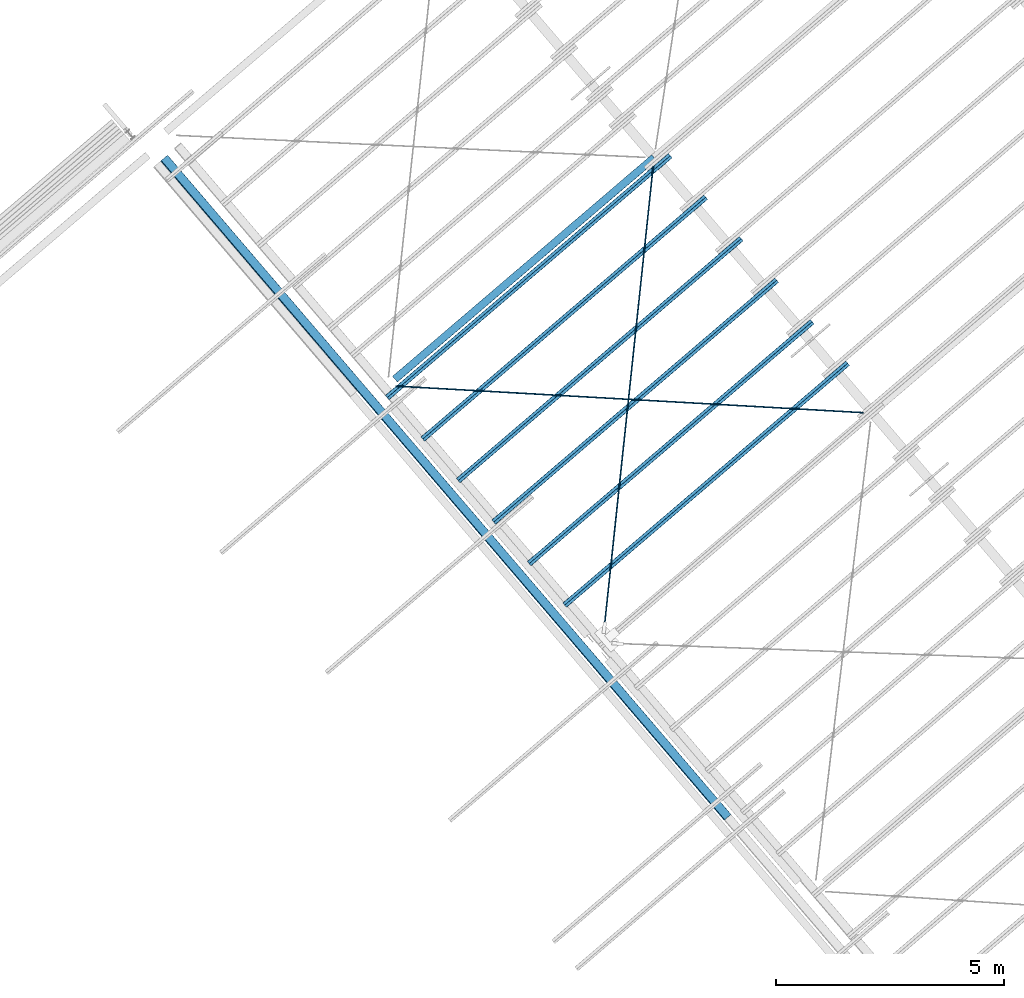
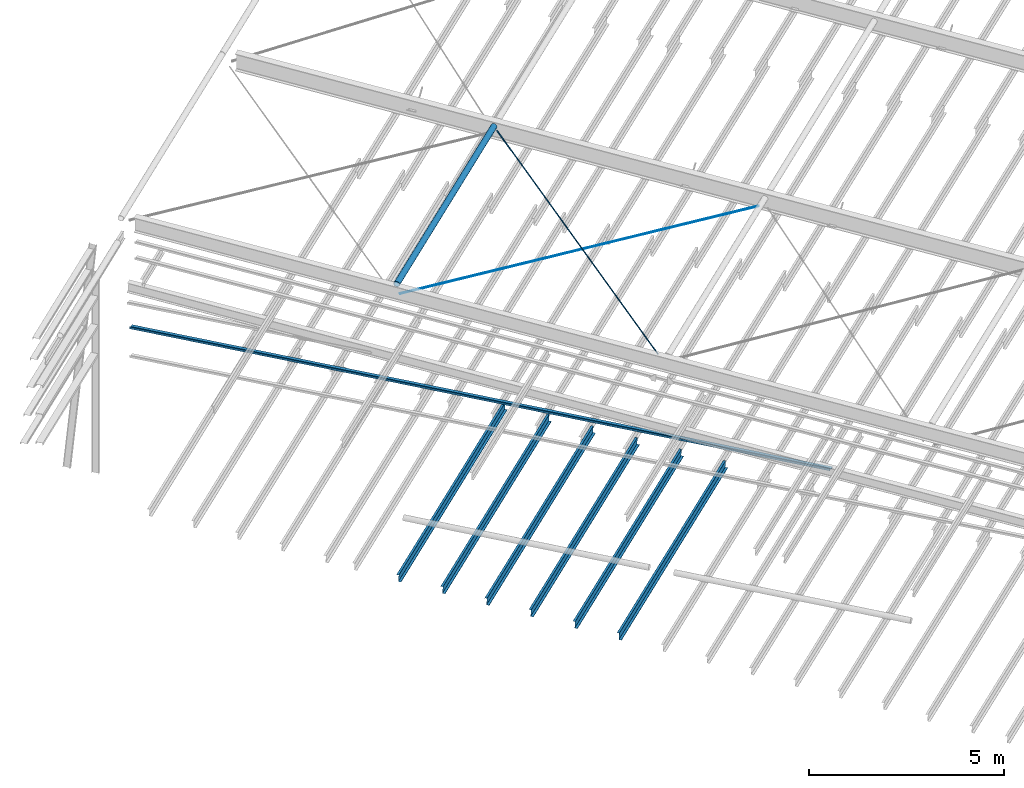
# One storey, part 8 of 25: 10 beams, 1 element without a shape of its own.
"""IFC2X3 building model written with IfcOpenShell, lengths in millimetres."""

from ifc_helpers import new_model, entity, si_unit, converted_unit, derived_unit, direction, frame, frame_2d, origin, origin_2d_with_axis, place, context, subcontext, project, spatial, polyline, circle_curve, parameter, trimmed, segment, composite_curve, circle, hollow_circle, outline, extrude, material, type_object, element, aggregate, save


model = new_model("IFC2X3")

# Units and contexts
model_context = context("Model", 3, precision=0.01, world=origin(), true_north=direction((6.123031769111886e-17, 1.0)))
body_context = subcontext(model_context, "Body", "Model", "MODEL_VIEW")
ifc_project = project(units=[si_unit("LENGTHUNIT", "METRE", prefix="MILLI"), si_unit("AREAUNIT", "SQUARE_METRE"), si_unit("VOLUMEUNIT", "CUBIC_METRE"), converted_unit("PLANEANGLEUNIT", "DEGREE", entity("IfcRatioMeasure", 0.017453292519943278), si_unit("PLANEANGLEUNIT", "RADIAN"), dimensions=[0, 0, 0, 0, 0, 0, 0]), si_unit("MASSUNIT", "GRAM", prefix="KILO"), derived_unit("MASSDENSITYUNIT", [(si_unit("MASSUNIT", "GRAM", prefix="KILO"), 1), (si_unit("LENGTHUNIT", "METRE"), -3)]), derived_unit("MOMENTOFINERTIAUNIT", [(si_unit("LENGTHUNIT", "METRE"), 4)]), si_unit("TIMEUNIT", "SECOND"), si_unit("FREQUENCYUNIT", "HERTZ"), si_unit("THERMODYNAMICTEMPERATUREUNIT", "DEGREE_CELSIUS"), derived_unit("THERMALTRANSMITTANCEUNIT", [(si_unit("MASSUNIT", "GRAM", prefix="KILO"), 1), (si_unit("THERMODYNAMICTEMPERATUREUNIT", "KELVIN"), -1), (si_unit("TIMEUNIT", "SECOND"), -3)]), derived_unit("VOLUMETRICFLOWRATEUNIT", [(si_unit("LENGTHUNIT", "METRE"), 3), (si_unit("TIMEUNIT", "SECOND"), -1)]), derived_unit("MASSFLOWRATEUNIT", [(si_unit("MASSUNIT", "GRAM", prefix="KILO"), 1), (si_unit("TIMEUNIT", "SECOND"), -1)]), derived_unit("ROTATIONALFREQUENCYUNIT", [(si_unit("TIMEUNIT", "SECOND"), -1)]), si_unit("ELECTRICCURRENTUNIT", "AMPERE"), si_unit("ELECTRICVOLTAGEUNIT", "VOLT"), si_unit("POWERUNIT", "WATT"), si_unit("FORCEUNIT", "NEWTON", prefix="KILO"), si_unit("ILLUMINANCEUNIT", "LUX"), si_unit("LUMINOUSFLUXUNIT", "LUMEN"), si_unit("LUMINOUSINTENSITYUNIT", "CANDELA"), derived_unit("USERDEFINED", [(si_unit("MASSUNIT", "GRAM", prefix="KILO"), -1), (si_unit("LENGTHUNIT", "METRE"), -2), (si_unit("TIMEUNIT", "SECOND"), 3), (si_unit("LUMINOUSFLUXUNIT", "LUMEN"), 1)]), derived_unit("SOUNDPOWERUNIT", [(si_unit("MASSUNIT", "GRAM", prefix="KILO"), 1), (si_unit("LENGTHUNIT", "METRE"), 2), (si_unit("TIMEUNIT", "SECOND"), -3)]), derived_unit("LINEARVELOCITYUNIT", [(si_unit("LENGTHUNIT", "METRE"), 1), (si_unit("TIMEUNIT", "SECOND"), -1)]), si_unit("PRESSUREUNIT", "PASCAL"), derived_unit("USERDEFINED", [(si_unit("LENGTHUNIT", "METRE"), -2), (si_unit("MASSUNIT", "GRAM", prefix="KILO"), 1), (si_unit("TIMEUNIT", "SECOND"), -2)]), derived_unit("LINEARFORCEUNIT", [(si_unit("MASSUNIT", "GRAM", prefix="KILO"), 1), (si_unit("LENGTHUNIT", "METRE"), 1), (si_unit("TIMEUNIT", "SECOND"), -2), (si_unit("LENGTHUNIT", "METRE"), -1)]), derived_unit("PLANARFORCEUNIT", [(si_unit("MASSUNIT", "GRAM", prefix="KILO"), 1), (si_unit("LENGTHUNIT", "METRE"), 1), (si_unit("TIMEUNIT", "SECOND"), -2), (si_unit("LENGTHUNIT", "METRE"), -2)])], contexts=[model_context])

# Site, building, storey
site_placement = place(None, frame((962.4174930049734, -6014.433753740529, 0.0), z_axis=(0.0, 0.0, 1.0), x_axis=(0.7601792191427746, 0.649713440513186, 0.0)))
site = spatial("IfcSite", under=ifc_project, at=site_placement, Name="Default", CompositionType="ELEMENT")
building_placement = place(site_placement, origin())
building = spatial("IfcBuilding", under=site, at=building_placement, CompositionType="ELEMENT")
storey_placement = place(building_placement, frame((0.0, 0.0, 9200.0)))
storey = spatial("IfcBuildingStorey", under=building, at=storey_placement, Name="TOP OF CEILING", CompositionType="ELEMENT", Elevation=9200.000000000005)

# Beams
ifc_material_1 = material(Name="Metal - Steel - 300 MPa")
beam_type_1 = type_object("IfcBeamType", Name="ADSK_AU_CHS-Circular Hollow Sections (AS 1163_C350):168.3x6.4CHS", PredefinedType="NOTDEFINED")
beam_1_placement = place(storey_placement, frame((162338.96020471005, -3867.590582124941, 3583.81152590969), z_axis=(0.0, 0.0, 1.0), x_axis=(-1.0, 0.0, 0.0)))
element("IfcBeam", 1, at=beam_1_placement, inside=storey, type_object=beam_type_1, material=ifc_material_1, Name="ADSK_AU_CHS-Circular Hollow Sections (AS 1163_C350):168.3x6.4CHS", ObjectType="ADSK_AU_CHS-Circular Hollow Sections (AS 1163_C350):168.3x6.4CHS", context=body_context, shape_type="SweptSolid", body=[
    extrude(hollow_circle(Radius=84.15000000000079, WallThickness=6.4000000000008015, at=origin_2d_with_axis()), frame((0.0, 0.0, -84.15000000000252), z_axis=(1.0, 0.0, 0.0), x_axis=(0.0, 1.0, 0.0)), (0.0, 0.0, 1.0), 7474.900953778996),
])
beam_type_2 = type_object("IfcBeamType", Name="ADSK_AU_Round Bars (AS 3679_1):24ROD", PredefinedType="NOTDEFINED")
beam_2_placement = place(storey_placement, frame((154874.08613403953, -10934.010682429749, 3010.0), z_axis=(-0.03451773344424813, -0.03267527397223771, 0.9988697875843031), x_axis=(0.7254021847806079, 0.6866822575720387, 0.047530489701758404)))
element("IfcBeam", 2, at=beam_2_placement, inside=storey, type_object=beam_type_2, Name="ADSK_AU_Round Bars (AS 3679_1):24ROD", ObjectType="ADSK_AU_Round Bars (AS 3679_1):24ROD", context=body_context, shape_type="SweptSolid", body=[
    extrude(circle(Radius=11.999999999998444, at=origin_2d_with_axis()), frame((-53.42958759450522, 0.0, -12.0), z_axis=(1.0, 0.0, 0.0), x_axis=(0.0, -1.0, 0.0)), (0.0, 0.0, 1.0), 10152.170021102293),
])
beam_3_placement = place(storey_placement, frame((162195.0169636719, -11097.978468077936, 2800.0), z_axis=(0.03512097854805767, -0.033647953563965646, 0.998816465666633), x_axis=(-0.7212327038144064, 0.6909831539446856, 0.04863813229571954)))
element("IfcBeam", 3, at=beam_3_placement, inside=storey, type_object=beam_type_2, Name="ADSK_AU_Round Bars (AS 3679_1):24ROD", ObjectType="ADSK_AU_Round Bars (AS 3679_1):24ROD", context=body_context, shape_type="SweptSolid", body=[
    extrude(circle(Radius=11.999999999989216, at=frame_2d((1.563849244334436e-12, 1.0888727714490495e-11), x_axis=(1.0, 0.0))), frame((0.0, 0.0, -12.0), z_axis=(1.0, 0.0, 0.0), x_axis=(0.0, -1.0, 0.0)), (0.0, 0.0, 1.0), 10280.000000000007),
])
beam_type_3 = type_object("IfcBeamType", Name="ADSK_UK_Light Gauge-Zeds-Purlin:Metsec-202Z14", PredefinedType="NOTDEFINED")
beam_4_placement = place(storey_placement, frame((154066.46020470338, -15907.428082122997, 1000.0), z_axis=(0.0, 0.0, 1.0), x_axis=(0.0, 1.0, 0.0)))
element("IfcBeam", 4, at=beam_4_placement, inside=storey, type_object=beam_type_3, material=ifc_material_1, Name="ADSK_UK_Light Gauge-Zeds-Purlin:Metsec-202Z14", ObjectType="ADSK_UK_Light Gauge-Zeds-Purlin:Metsec-202Z14", context=body_context, shape_type="SweptSolid", body=[
    extrude(outline(composite_curve([segment(polyline([(3.6000000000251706, -101.19999999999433), (58.0, -101.19999999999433)]), True, "CONTINUOUS"), segment(trimmed(circle_curve(frame_2d((58.0, -98.39999999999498), x_axis=(0.0, -1.0)), 2.8000000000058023), [parameter(0.0)], [parameter(89.99999999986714)], True, "PARAMETER"), True, "CONTINUOUS"), segment(polyline([(60.800000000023, -98.40000000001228), (60.79999999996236, -80.19999999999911)]), True, "CONTINUOUS"), segment(polyline([(60.800000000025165, -80.19999999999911), (59.399999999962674, -80.19999999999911)]), True, "CONTINUOUS"), segment(polyline([(59.40000000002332, -80.19999999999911), (59.399999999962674, -98.39999999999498)]), True, "CONTINUOUS"), segment(trimmed(circle_curve(frame_2d((58.0, -98.39999999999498), x_axis=(1.0, 0.0)), 1.3999999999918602), [parameter(269.99999999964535)], [parameter(0.0)], True, "PARAMETER"), False, "CONTINUOUS"), segment(polyline([(58.0, -99.79999999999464), (3.5999999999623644, -99.79999999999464)]), True, "CONTINUOUS"), segment(trimmed(circle_curve(frame_2d((3.599999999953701, -98.39999999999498), x_axis=(0.0, -1.0)), 1.399999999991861), [parameter(269.99999999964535)], [parameter(0.0)], True, "PARAMETER"), False, "CONTINUOUS"), segment(polyline([(2.2000000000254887, -98.39999999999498), (2.1999999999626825, 98.0)]), True, "CONTINUOUS"), segment(trimmed(circle_curve(frame_2d((-0.6000000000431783, 98.0), x_axis=(1.0, 0.0)), 2.8000000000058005), [parameter(0.0)], [parameter(89.99999999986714)], True, "PARAMETER"), True, "CONTINUOUS"), segment(polyline([(-0.5999999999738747, 100.80000000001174), (-60.0, 100.80000000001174)]), True, "CONTINUOUS"), segment(trimmed(circle_curve(frame_2d((-60.0, 98.0), x_axis=(0.0, 1.0)), 2.8000000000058), [parameter(0.0)], [parameter(89.99999999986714)], True, "PARAMETER"), True, "CONTINUOUS"), segment(polyline([(-62.79999999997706, 98.0), (-62.8000000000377, 81.80000000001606)]), True, "CONTINUOUS"), segment(polyline([(-62.79999999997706, 81.80000000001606), (-61.40000000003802, 81.80000000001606)]), True, "CONTINUOUS"), segment(polyline([(-61.399999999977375, 81.79999999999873), (-61.40000000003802, 98.0)]), True, "CONTINUOUS"), segment(trimmed(circle_curve(frame_2d((-60.0, 98.0), x_axis=(-1.0, 0.0)), 1.3999999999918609), [parameter(269.99999999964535)], [parameter(0.0)], True, "PARAMETER"), False, "CONTINUOUS"), segment(polyline([(-60.0, 99.40000000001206), (-0.6000000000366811, 99.40000000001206)]), True, "CONTINUOUS"), segment(trimmed(circle_curve(frame_2d((-0.600000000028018, 98.0), x_axis=(0.0, 1.0)), 1.399999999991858), [parameter(269.99999999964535)], [parameter(0.0)], True, "PARAMETER"), False, "CONTINUOUS"), segment(polyline([(0.8000000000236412, 98.0), (0.7999999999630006, -98.39999999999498)]), True, "CONTINUOUS"), segment(trimmed(circle_curve(frame_2d((3.5999999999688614, -98.39999999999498), x_axis=(-1.0, 0.0)), 2.800000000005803), [parameter(0.0)], [parameter(89.99999999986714)], True, "PARAMETER"), True, "CONTINUOUS")], self_intersect=False)), frame((0.0, -100.8000000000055, 0.6999999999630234), z_axis=(1.0, 0.0, 0.0), x_axis=(0.0, 0.0, -1.0)), (0.0, 0.0, 1.0), 19012.000000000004),
])

# Assembly, beams
assembly_placement = place(storey_placement, origin())
assembly = element("IfcElementAssembly", 5, at=assembly_placement, inside=storey, Name="Structural Beam System:Structural Beam System 1", ObjectType="Structural Beam System:Structural Beam System 1", AssemblyPlace="NOTDEFINED", PredefinedType="BEAM_GRID")
ifc_material_2 = material(Name="Metal - Steel - 345 MPa")
beam_type_4 = type_object("IfcBeamType", Name="ADSK_AU_Light Gauge-Zeds:Z20015", PredefinedType="NOTDEFINED")
beam_5_placement = place(building_placement, frame((162638.96020471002, -4065.129149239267, 3905.7468676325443), z_axis=(0.0, 0.0, 1.0), x_axis=(-1.0, 0.0, 0.0)))
beam_5 = element("IfcBeam", 6, at=beam_5_placement, type_object=beam_type_4, material=ifc_material_2, Name="ADSK_AU_Light Gauge-Zeds:Z20015", ObjectType="ADSK_AU_Light Gauge-Zeds:Z20015", context=body_context, shape_type="SweptSolid", body=[
    extrude(outline(composite_curve([segment(polyline([(100.0, 1.0), (100.0, -69.0)]), True, "CONTINUOUS"), segment(trimmed(circle_curve(frame_2d((98.0, -69.0), x_axis=(0.0, -1.0)), 2.000000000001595), [parameter(0.0)], [parameter(89.99999999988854)], True, "PARAMETER"), False, "CONTINUOUS"), segment(polyline([(98.0, -71.0), (81.49999999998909, -71.0)]), True, "CONTINUOUS"), segment(polyline([(81.49999999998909, -71.0), (81.4999999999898, -72.50000000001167)]), True, "CONTINUOUS"), segment(polyline([(81.49999999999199, -72.50000000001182), (98.0, -72.50000000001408)]), True, "CONTINUOUS"), segment(trimmed(circle_curve(frame_2d((98.0, -69.0), x_axis=(1.0, 0.0)), 3.500000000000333), [parameter(270.0000000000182)], [parameter(0.0)], True, "PARAMETER"), True, "CONTINUOUS"), segment(polyline([(101.49999999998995, -69.0), (101.50000000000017, 1.0)]), True, "CONTINUOUS"), segment(trimmed(circle_curve(frame_2d((98.0, 1.0), x_axis=(0.0, 1.0)), 3.500000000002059), [parameter(270.0000000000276)], [parameter(0.0)], True, "PARAMETER"), True, "CONTINUOUS"), segment(polyline([(98.0, 4.499999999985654), (-98.0, 4.500000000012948)]), True, "CONTINUOUS"), segment(trimmed(circle_curve(frame_2d((-98.0, 6.500000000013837), x_axis=(-1.0, 0.0)), 2.0000000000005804), [parameter(0.0)], [parameter(89.99999999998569)], True, "PARAMETER"), False, "CONTINUOUS"), segment(polyline([(-100.0, 6.500000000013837), (-100.0, 64.0)]), True, "CONTINUOUS"), segment(trimmed(circle_curve(frame_2d((-98.0, 64.0), x_axis=(0.0, 1.0)), 2.000000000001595), [parameter(0.0)], [parameter(89.99999999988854)], True, "PARAMETER"), False, "CONTINUOUS"), segment(polyline([(-98.0, 66.0), (-81.49999999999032, 66.0)]), True, "CONTINUOUS"), segment(polyline([(-81.49999999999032, 66.0), (-81.49999999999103, 67.50000000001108)]), True, "CONTINUOUS"), segment(polyline([(-81.4999999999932, 67.50000000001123), (-98.0, 67.50000000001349)]), True, "CONTINUOUS"), segment(trimmed(circle_curve(frame_2d((-98.0, 64.0), x_axis=(-1.0, 0.0)), 3.5000000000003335), [parameter(270.0000000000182)], [parameter(0.0)], True, "PARAMETER"), True, "CONTINUOUS"), segment(polyline([(-101.49999999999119, 64.0), (-101.4999999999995, 6.500000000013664)]), True, "CONTINUOUS"), segment(trimmed(circle_curve(frame_2d((-98.0, 6.500000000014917), x_axis=(0.0, -1.0)), 3.5000000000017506), [parameter(270.0000000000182)], [parameter(0.0)], True, "PARAMETER"), True, "CONTINUOUS"), segment(polyline([(-98.0, 3.0), (98.0, 3.0)]), True, "CONTINUOUS"), segment(trimmed(circle_curve(frame_2d((98.0, 1.0), x_axis=(1.0, 0.0)), 2.0000000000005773), [parameter(0.0)], [parameter(89.99999999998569)], True, "PARAMETER"), False, "CONTINUOUS")], self_intersect=False)), frame((0.013129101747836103, -2.59124385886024, -101.56665523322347), z_axis=(-1.0, 0.0, 0.0), x_axis=(0.0, -0.06975647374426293, -0.9975640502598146)), (0.0, 0.0, -1.0), 8164.0000000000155),
])
beam_6_placement = place(building_placement, frame((162638.96020471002, -5262.206009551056, 3822.0390991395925), z_axis=(0.0, 0.0, 1.0), x_axis=(-1.0, 0.0, 0.0)))
beam_6 = element("IfcBeam", 7, at=beam_6_placement, type_object=beam_type_4, material=ifc_material_2, Name="ADSK_AU_Light Gauge-Zeds:Z20015", ObjectType="ADSK_AU_Light Gauge-Zeds:Z20015", context=body_context, shape_type="SweptSolid", body=[
    extrude(outline(composite_curve([segment(polyline([(100.0, 1.0), (100.0, -69.0)]), True, "CONTINUOUS"), segment(trimmed(circle_curve(frame_2d((98.0, -69.0), x_axis=(0.0, -1.0)), 2.000000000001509), [parameter(0.0)], [parameter(89.99999999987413)], True, "PARAMETER"), False, "CONTINUOUS"), segment(polyline([(98.0, -71.0), (81.49999999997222, -71.0)]), True, "CONTINUOUS"), segment(polyline([(81.49999999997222, -71.0), (81.49999999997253, -72.50000000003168)]), True, "CONTINUOUS"), segment(polyline([(81.49999999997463, -72.50000000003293), (98.0, -72.5000000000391)]), True, "CONTINUOUS"), segment(trimmed(circle_curve(frame_2d((98.0, -69.0), x_axis=(1.0, 0.0)), 3.5000000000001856), [parameter(270.0000000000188)], [parameter(0.0)], True, "PARAMETER"), True, "CONTINUOUS"), segment(polyline([(101.49999999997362, -69.0), (101.5000000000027, 1.0)]), True, "CONTINUOUS"), segment(trimmed(circle_curve(frame_2d((98.0, 1.0), x_axis=(0.0, 1.0)), 3.5000000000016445), [parameter(269.9999999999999)], [parameter(0.0)], True, "PARAMETER"), True, "CONTINUOUS"), segment(polyline([(98.0, 4.499999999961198), (-98.0, 4.500000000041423)]), True, "CONTINUOUS"), segment(trimmed(circle_curve(frame_2d((-98.0, 6.500000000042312), x_axis=(-1.0, 0.0)), 2.000000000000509), [parameter(0.0)], [parameter(89.99999999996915)], True, "PARAMETER"), False, "CONTINUOUS"), segment(polyline([(-100.0, 6.500000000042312), (-100.0, 64.0)]), True, "CONTINUOUS"), segment(trimmed(circle_curve(frame_2d((-98.0, 64.0), x_axis=(0.0, 1.0)), 2.000000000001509), [parameter(0.0)], [parameter(89.99999999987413)], True, "PARAMETER"), False, "CONTINUOUS"), segment(polyline([(-98.0, 66.0), (-81.49999999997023, 66.0)]), True, "CONTINUOUS"), segment(polyline([(-81.49999999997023, 66.0), (-81.49999999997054, 67.50000000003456)]), True, "CONTINUOUS"), segment(polyline([(-81.49999999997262, 67.50000000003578), (-98.0, 67.50000000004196)]), True, "CONTINUOUS"), segment(trimmed(circle_curve(frame_2d((-98.0, 64.0), x_axis=(-1.0, 0.0)), 3.5000000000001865), [parameter(270.0000000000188)], [parameter(0.0)], True, "PARAMETER"), True, "CONTINUOUS"), segment(polyline([(-101.49999999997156, 64.0), (-101.49999999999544, 6.500000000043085)]), True, "CONTINUOUS"), segment(trimmed(circle_curve(frame_2d((-98.0, 6.500000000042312), x_axis=(0.0, -1.0)), 3.500000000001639), [parameter(269.9999999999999)], [parameter(0.0)], True, "PARAMETER"), True, "CONTINUOUS"), segment(polyline([(-98.0, 3.0), (98.0, 3.0)]), True, "CONTINUOUS"), segment(trimmed(circle_curve(frame_2d((98.0, 1.0), x_axis=(1.0, 0.0)), 2.000000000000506), [parameter(0.0)], [parameter(89.99999999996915)], True, "PARAMETER"), False, "CONTINUOUS")], self_intersect=False)), frame((0.013129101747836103, -2.5912438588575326, -101.56665523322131), z_axis=(-1.0, 0.0, 0.0), x_axis=(0.0, -0.06975647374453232, -0.9975640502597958)), (0.0, 0.0, -1.0), 8164.0000000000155),
])
beam_7_placement = place(building_placement, frame((162638.96020471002, -6459.2828698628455, 3738.3313306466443), z_axis=(0.0, 0.0, 1.0), x_axis=(-1.0, 0.0, 0.0)))
beam_7 = element("IfcBeam", 8, at=beam_7_placement, type_object=beam_type_4, material=ifc_material_2, Name="ADSK_AU_Light Gauge-Zeds:Z20015", ObjectType="ADSK_AU_Light Gauge-Zeds:Z20015", context=body_context, shape_type="SweptSolid", body=[
    extrude(outline(composite_curve([segment(polyline([(100.0, 1.0), (100.0, -69.0)]), True, "CONTINUOUS"), segment(trimmed(circle_curve(frame_2d((98.0, -69.0), x_axis=(0.0, -1.0)), 2.000000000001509), [parameter(0.0)], [parameter(89.99999999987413)], True, "PARAMETER"), False, "CONTINUOUS"), segment(polyline([(98.0, -71.0), (81.49999999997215, -71.0)]), True, "CONTINUOUS"), segment(polyline([(81.49999999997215, -71.0), (81.49999999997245, -72.50000000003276)]), True, "CONTINUOUS"), segment(polyline([(81.49999999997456, -72.500000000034), (98.0, -72.50000000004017)]), True, "CONTINUOUS"), segment(trimmed(circle_curve(frame_2d((98.0, -69.0), x_axis=(1.0, 0.0)), 3.5000000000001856), [parameter(270.0000000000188)], [parameter(0.0)], True, "PARAMETER"), True, "CONTINUOUS"), segment(polyline([(101.49999999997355, -69.0), (101.50000000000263, 1.0)]), True, "CONTINUOUS"), segment(trimmed(circle_curve(frame_2d((98.0, 1.0), x_axis=(0.0, 1.0)), 3.5000000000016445), [parameter(269.9999999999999)], [parameter(0.0)], True, "PARAMETER"), True, "CONTINUOUS"), segment(polyline([(98.0, 4.49999999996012), (-98.0, 4.500000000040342)]), True, "CONTINUOUS"), segment(trimmed(circle_curve(frame_2d((-98.0, 6.500000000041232), x_axis=(-1.0, 0.0)), 2.000000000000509), [parameter(0.0)], [parameter(89.99999999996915)], True, "PARAMETER"), False, "CONTINUOUS"), segment(polyline([(-100.0, 6.500000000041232), (-100.0, 64.0)]), True, "CONTINUOUS"), segment(trimmed(circle_curve(frame_2d((-98.0, 64.0), x_axis=(0.0, 1.0)), 2.000000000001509), [parameter(0.0)], [parameter(89.99999999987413)], True, "PARAMETER"), False, "CONTINUOUS"), segment(polyline([(-98.0, 66.0), (-81.49999999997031, 66.0)]), True, "CONTINUOUS"), segment(polyline([(-81.49999999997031, 66.0), (-81.49999999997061, 67.50000000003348)]), True, "CONTINUOUS"), segment(polyline([(-81.4999999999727, 67.5000000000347), (-98.0, 67.50000000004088)]), True, "CONTINUOUS"), segment(trimmed(circle_curve(frame_2d((-98.0, 64.0), x_axis=(-1.0, 0.0)), 3.5000000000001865), [parameter(270.0000000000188)], [parameter(0.0)], True, "PARAMETER"), True, "CONTINUOUS"), segment(polyline([(-101.49999999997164, 64.0), (-101.49999999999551, 6.500000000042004)]), True, "CONTINUOUS"), segment(trimmed(circle_curve(frame_2d((-98.0, 6.500000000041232), x_axis=(0.0, -1.0)), 3.500000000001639), [parameter(269.9999999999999)], [parameter(0.0)], True, "PARAMETER"), True, "CONTINUOUS"), segment(polyline([(-98.0, 3.0), (98.0, 3.0)]), True, "CONTINUOUS"), segment(trimmed(circle_curve(frame_2d((98.0, 1.0), x_axis=(1.0, 0.0)), 2.000000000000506), [parameter(0.0)], [parameter(89.99999999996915)], True, "PARAMETER"), False, "CONTINUOUS")], self_intersect=False)), frame((0.013129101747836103, -2.5912438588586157, -101.56665523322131), z_axis=(-1.0, 0.0, 0.0), x_axis=(0.0, -0.06975647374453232, -0.9975640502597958)), (0.0, 0.0, -1.0), 8164.0000000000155),
])
beam_8_placement = place(building_placement, frame((162638.96020471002, -7656.359730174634, 3654.6235621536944), z_axis=(0.0, 0.0, 1.0), x_axis=(-1.0, 0.0, 0.0)))
beam_8 = element("IfcBeam", 9, at=beam_8_placement, type_object=beam_type_4, material=ifc_material_2, Name="ADSK_AU_Light Gauge-Zeds:Z20015", ObjectType="ADSK_AU_Light Gauge-Zeds:Z20015", context=body_context, shape_type="SweptSolid", body=[
    extrude(outline(composite_curve([segment(polyline([(100.0, 1.0), (100.0, -69.0)]), True, "CONTINUOUS"), segment(trimmed(circle_curve(frame_2d((98.0, -69.0), x_axis=(0.0, -1.0)), 2.000000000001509), [parameter(0.0)], [parameter(89.99999999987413)], True, "PARAMETER"), False, "CONTINUOUS"), segment(polyline([(98.0, -71.0), (81.49999999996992, -71.0)]), True, "CONTINUOUS"), segment(polyline([(81.49999999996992, -71.0), (81.49999999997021, -72.50000000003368)]), True, "CONTINUOUS"), segment(polyline([(81.49999999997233, -72.50000000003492), (98.0, -72.5000000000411)]), True, "CONTINUOUS"), segment(trimmed(circle_curve(frame_2d((98.0, -69.0), x_axis=(1.0, 0.0)), 3.5000000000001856), [parameter(270.0000000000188)], [parameter(0.0)], True, "PARAMETER"), True, "CONTINUOUS"), segment(polyline([(101.49999999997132, -69.0), (101.5000000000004, 1.0)]), True, "CONTINUOUS"), segment(trimmed(circle_curve(frame_2d((98.0, 1.0), x_axis=(0.0, 1.0)), 3.5000000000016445), [parameter(269.9999999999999)], [parameter(0.0)], True, "PARAMETER"), True, "CONTINUOUS"), segment(polyline([(98.0, 4.499999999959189), (-98.0, 4.500000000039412)]), True, "CONTINUOUS"), segment(trimmed(circle_curve(frame_2d((-98.0, 6.500000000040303), x_axis=(-1.0, 0.0)), 2.000000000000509), [parameter(0.0)], [parameter(89.99999999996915)], True, "PARAMETER"), False, "CONTINUOUS"), segment(polyline([(-100.0, 6.500000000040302), (-100.0, 64.0)]), True, "CONTINUOUS"), segment(trimmed(circle_curve(frame_2d((-98.0, 64.0), x_axis=(0.0, 1.0)), 2.000000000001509), [parameter(0.0)], [parameter(89.99999999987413)], True, "PARAMETER"), False, "CONTINUOUS"), segment(polyline([(-98.0, 66.0), (-81.49999999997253, 66.0)]), True, "CONTINUOUS"), segment(polyline([(-81.49999999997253, 66.0), (-81.49999999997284, 67.50000000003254)]), True, "CONTINUOUS"), segment(polyline([(-81.49999999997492, 67.50000000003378), (-98.0, 67.50000000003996)]), True, "CONTINUOUS"), segment(trimmed(circle_curve(frame_2d((-98.0, 64.0), x_axis=(-1.0, 0.0)), 3.5000000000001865), [parameter(270.0000000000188)], [parameter(0.0)], True, "PARAMETER"), True, "CONTINUOUS"), segment(polyline([(-101.49999999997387, 64.0), (-101.49999999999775, 6.500000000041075)]), True, "CONTINUOUS"), segment(trimmed(circle_curve(frame_2d((-98.0, 6.500000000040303), x_axis=(0.0, -1.0)), 3.500000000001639), [parameter(269.9999999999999)], [parameter(0.0)], True, "PARAMETER"), True, "CONTINUOUS"), segment(polyline([(-98.0, 3.0), (98.0, 3.0)]), True, "CONTINUOUS"), segment(trimmed(circle_curve(frame_2d((98.0, 1.0), x_axis=(1.0, 0.0)), 2.000000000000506), [parameter(0.0)], [parameter(89.99999999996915)], True, "PARAMETER"), False, "CONTINUOUS")], self_intersect=False)), frame((0.013129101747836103, -2.5912438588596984, -101.56665523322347), z_axis=(-1.0, 0.0, 0.0), x_axis=(0.0, -0.06975647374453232, -0.9975640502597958)), (0.0, 0.0, -1.0), 8164.0000000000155),
])
beam_9_placement = place(building_placement, frame((162638.96020471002, -8853.436590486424, 3570.9157936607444), z_axis=(0.0, 0.0, 1.0), x_axis=(-1.0, 0.0, 0.0)))
beam_9 = element("IfcBeam", 10, at=beam_9_placement, type_object=beam_type_4, material=ifc_material_2, Name="ADSK_AU_Light Gauge-Zeds:Z20015", ObjectType="ADSK_AU_Light Gauge-Zeds:Z20015", context=body_context, shape_type="SweptSolid", body=[
    extrude(outline(composite_curve([segment(polyline([(100.0, 1.0), (100.0, -69.0)]), True, "CONTINUOUS"), segment(trimmed(circle_curve(frame_2d((98.0, -69.0), x_axis=(0.0, -1.0)), 2.000000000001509), [parameter(0.0)], [parameter(89.99999999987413)], True, "PARAMETER"), False, "CONTINUOUS"), segment(polyline([(98.0, -71.0), (81.49999999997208, -71.0)]), True, "CONTINUOUS"), segment(polyline([(81.49999999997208, -71.0), (81.49999999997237, -72.50000000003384)]), True, "CONTINUOUS"), segment(polyline([(81.49999999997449, -72.50000000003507), (98.0, -72.50000000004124)]), True, "CONTINUOUS"), segment(trimmed(circle_curve(frame_2d((98.0, -69.0), x_axis=(1.0, 0.0)), 3.5000000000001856), [parameter(270.0000000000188)], [parameter(0.0)], True, "PARAMETER"), True, "CONTINUOUS"), segment(polyline([(101.49999999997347, -69.0), (101.50000000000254, 1.0)]), True, "CONTINUOUS"), segment(trimmed(circle_curve(frame_2d((98.0, 1.0), x_axis=(0.0, 1.0)), 3.5000000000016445), [parameter(269.9999999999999)], [parameter(0.0)], True, "PARAMETER"), True, "CONTINUOUS"), segment(polyline([(98.0, 4.499999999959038), (-98.0, 4.500000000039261)]), True, "CONTINUOUS"), segment(trimmed(circle_curve(frame_2d((-98.0, 6.500000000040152), x_axis=(-1.0, 0.0)), 2.000000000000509), [parameter(0.0)], [parameter(89.99999999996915)], True, "PARAMETER"), False, "CONTINUOUS"), segment(polyline([(-100.0, 6.500000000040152), (-100.0, 64.0)]), True, "CONTINUOUS"), segment(trimmed(circle_curve(frame_2d((-98.0, 64.0), x_axis=(0.0, 1.0)), 2.000000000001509), [parameter(0.0)], [parameter(89.99999999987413)], True, "PARAMETER"), False, "CONTINUOUS"), segment(polyline([(-98.0, 66.0), (-81.49999999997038, 66.0)]), True, "CONTINUOUS"), segment(polyline([(-81.49999999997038, 66.0), (-81.49999999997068, 67.5000000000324)]), True, "CONTINUOUS"), segment(polyline([(-81.49999999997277, 67.50000000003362), (-98.0, 67.5000000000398)]), True, "CONTINUOUS"), segment(trimmed(circle_curve(frame_2d((-98.0, 64.0), x_axis=(-1.0, 0.0)), 3.5000000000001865), [parameter(270.0000000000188)], [parameter(0.0)], True, "PARAMETER"), True, "CONTINUOUS"), segment(polyline([(-101.4999999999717, 64.0), (-101.4999999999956, 6.500000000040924)]), True, "CONTINUOUS"), segment(trimmed(circle_curve(frame_2d((-98.0, 6.500000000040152), x_axis=(0.0, -1.0)), 3.500000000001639), [parameter(269.9999999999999)], [parameter(0.0)], True, "PARAMETER"), True, "CONTINUOUS"), segment(polyline([(-98.0, 3.0), (98.0, 3.0)]), True, "CONTINUOUS"), segment(trimmed(circle_curve(frame_2d((98.0, 1.0), x_axis=(1.0, 0.0)), 2.000000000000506), [parameter(0.0)], [parameter(89.99999999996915)], True, "PARAMETER"), False, "CONTINUOUS")], self_intersect=False)), frame((0.013129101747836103, -2.5912438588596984, -101.56665523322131), z_axis=(-1.0, 0.0, 0.0), x_axis=(0.0, -0.06975647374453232, -0.9975640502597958)), (0.0, 0.0, -1.0), 8164.0000000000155),
])
beam_10_placement = place(building_placement, frame((162638.96020471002, -10050.513450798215, 3487.2080251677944), z_axis=(0.0, 0.0, 1.0), x_axis=(-1.0, 0.0, 0.0)))
beam_10 = element("IfcBeam", 11, at=beam_10_placement, type_object=beam_type_4, material=ifc_material_2, Name="ADSK_AU_Light Gauge-Zeds:Z20015", ObjectType="ADSK_AU_Light Gauge-Zeds:Z20015", context=body_context, shape_type="SweptSolid", body=[
    extrude(outline(composite_curve([segment(polyline([(100.0, 1.0), (100.0, -69.0)]), True, "CONTINUOUS"), segment(trimmed(circle_curve(frame_2d((98.0, -69.0), x_axis=(0.0, -1.0)), 2.000000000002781), [parameter(0.0)], [parameter(89.99999999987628)], True, "PARAMETER"), False, "CONTINUOUS"), segment(polyline([(98.0, -71.0), (81.49999999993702, -71.0)]), True, "CONTINUOUS"), segment(polyline([(81.49999999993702, -71.0), (81.49999999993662, -72.50000000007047)]), True, "CONTINUOUS"), segment(polyline([(81.49999999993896, -72.50000000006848), (98.0, -72.5000000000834)]), True, "CONTINUOUS"), segment(trimmed(circle_curve(frame_2d((98.0, -69.0), x_axis=(1.0, 0.0)), 3.5000000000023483), [parameter(270.00000000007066)], [parameter(0.0)], True, "PARAMETER"), True, "CONTINUOUS"), segment(polyline([(101.49999999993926, -69.0), (101.50000000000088, 1.0)]), True, "CONTINUOUS"), segment(trimmed(circle_curve(frame_2d((98.0, 1.0), x_axis=(0.0, 1.0)), 3.500000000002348), [parameter(270.00000000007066)], [parameter(0.0)], True, "PARAMETER"), True, "CONTINUOUS"), segment(polyline([(98.0, 4.49999999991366), (-98.0, 4.500000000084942)]), True, "CONTINUOUS"), segment(trimmed(circle_curve(frame_2d((-98.0, 6.500000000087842), x_axis=(-1.0, 0.0)), 2.0000000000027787), [parameter(0.0)], [parameter(89.99999999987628)], True, "PARAMETER"), False, "CONTINUOUS"), segment(polyline([(-100.0, 6.500000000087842), (-100.0, 64.0)]), True, "CONTINUOUS"), segment(trimmed(circle_curve(frame_2d((-98.0, 64.0), x_axis=(0.0, 1.0)), 2.000000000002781), [parameter(0.0)], [parameter(89.99999999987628)], True, "PARAMETER"), False, "CONTINUOUS"), segment(polyline([(-98.0, 66.0), (-81.49999999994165, 66.0)]), True, "CONTINUOUS"), segment(polyline([(-81.4999999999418, 66.0), (-81.49999999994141, 67.5000000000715)]), True, "CONTINUOUS"), segment(polyline([(-81.49999999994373, 67.50000000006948), (-98.0, 67.50000000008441)]), True, "CONTINUOUS"), segment(trimmed(circle_curve(frame_2d((-98.0, 64.0), x_axis=(-1.0, 0.0)), 3.500000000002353), [parameter(270.00000000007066)], [parameter(0.0)], True, "PARAMETER"), True, "CONTINUOUS"), segment(polyline([(-101.49999999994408, 64.0), (-101.4999999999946, 6.500000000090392)]), True, "CONTINUOUS"), segment(trimmed(circle_curve(frame_2d((-98.0, 6.500000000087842), x_axis=(0.0, -1.0)), 3.5000000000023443), [parameter(270.00000000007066)], [parameter(0.0)], True, "PARAMETER"), True, "CONTINUOUS"), segment(polyline([(-98.0, 3.0), (98.0, 3.0)]), True, "CONTINUOUS"), segment(trimmed(circle_curve(frame_2d((98.0, 1.0), x_axis=(1.0, 0.0)), 2.000000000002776), [parameter(0.0)], [parameter(89.99999999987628)], True, "PARAMETER"), False, "CONTINUOUS")], self_intersect=False)), frame((0.013129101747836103, -2.5912438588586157, -101.56665523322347), z_axis=(-1.0, 0.0, 0.0), x_axis=(0.0, -0.06975647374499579, -0.9975640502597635)), (0.0, 0.0, -1.0), 8164.000000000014),
])
aggregate(assembly, [beam_5, beam_6, beam_7, beam_8, beam_9, beam_10])

save(model, "model.ifc")
